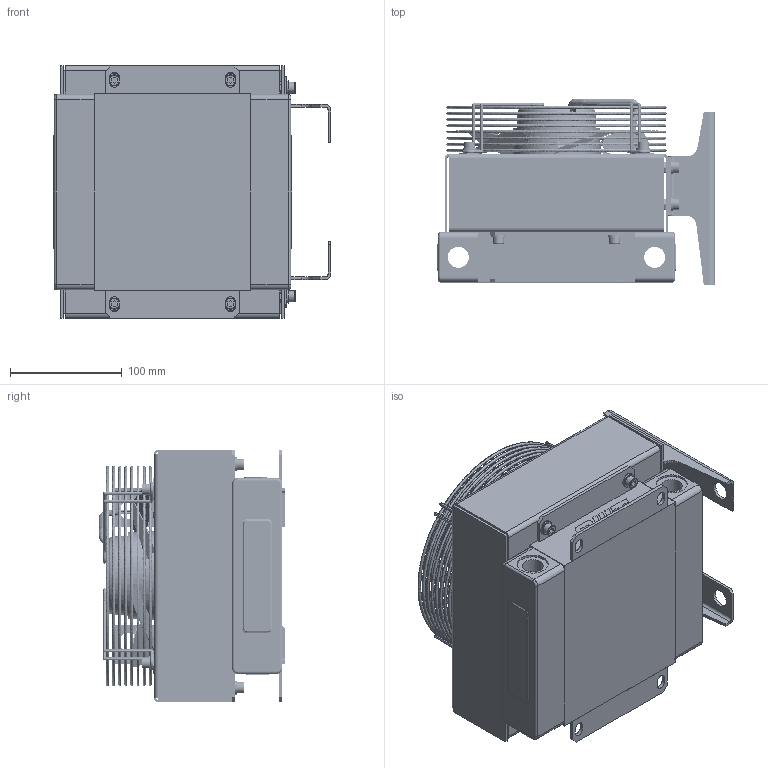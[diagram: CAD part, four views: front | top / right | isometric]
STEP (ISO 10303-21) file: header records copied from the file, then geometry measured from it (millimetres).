
FILE_DESCRIPTION(('STEP AP203'),'2;1');
FILE_NAME('SS101200A-P.stp','2014-10-29T13:33:42',(''),(''),'2012.1.115','THINKDESIGN','');
FILE_SCHEMA(('CONFIG_CONTROL_DESIGN'));
Bounding box: 249 x 166.92 x 226 mm (x, y, z)
Volume: 1640724.8 mm3; surface area: 571515.6 mm2
Topology: 64 solids, 64 shells, 1936 faces, 6026 edges, 4788 vertices
Faces by surface type: bspline 863, plane 700, cylinder 373
Full cylindrical faces by diameter (mm): 5 x16, 6 x12, 6.5 x32, 8 x4, 10 x12, 12.5 x12, 16.5 x4, 19 x4, 28 x4, 178 x1
Entity records: 87871 total; most frequent: CARTESIAN_POINT 48091, DIRECTION 7132, ORIENTED_EDGE 5794, VECTOR 3186, LINE 3186, COMPOSITE_CURVE_SEGMENT 3048, EDGE_CURVE 2897, AXIS2_PLACEMENT_3D 1973
